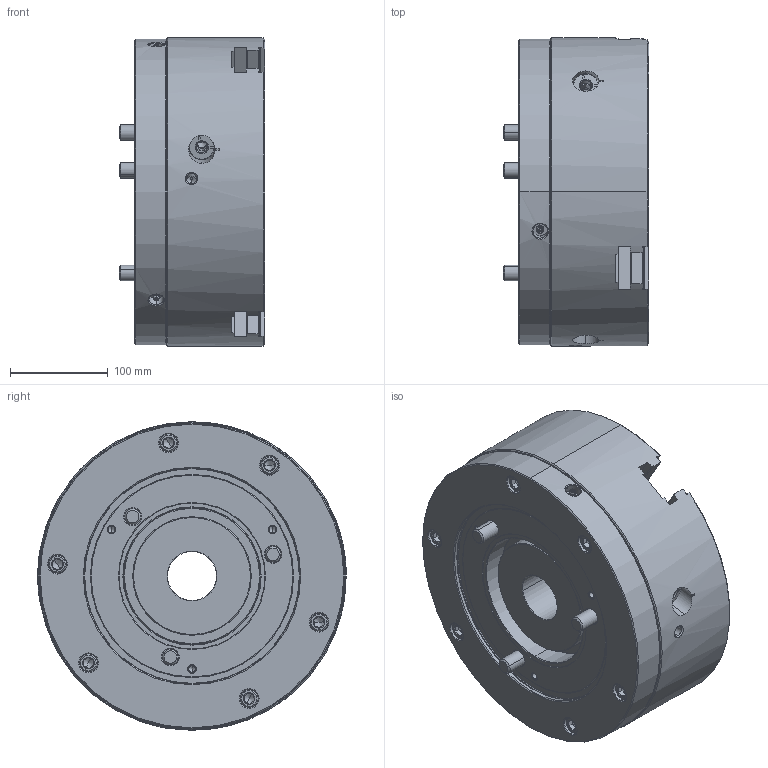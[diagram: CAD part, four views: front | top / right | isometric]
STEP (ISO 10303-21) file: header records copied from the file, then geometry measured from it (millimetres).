
FILE_DESCRIPTION (( 'STEP AP214' ), '1' );
FILE_NAME ('QJR12-00_UC.STEP', '2025-04-15T07:49:09', ( '' ), ( '' ), 'SwSTEP 2.0', 'SolidWorks 2022', '' );
FILE_SCHEMA (( 'AUTOMOTIVE_DESIGN' ));
Length unit declared in the file: millimetre
Products named in the file (3): QJR12-00_UC; 開端^QJR12-00_61P263143; Copy of 61P804753^QJR12-00_61P263143
Assembly tree (2 placements, depth 2):
  QJR12-00_UC
    Copy of 61P804753^QJR12-00_61P263143
    開端^QJR12-00_61P263143
Bounding box: 149 x 315 x 315 mm (x, y, z)
Volume: 8496657.9 mm3; surface area: 545060.2 mm2
Topology: 2 solids, 24 shells, 1498 faces, 3790 edges, 2380 vertices
Faces by surface type: plane 667, cone 375, cylinder 291, bspline 119, torus 40, sphere 6
Entity records: 55324 total; most frequent: CARTESIAN_POINT 20134, ORIENTED_EDGE 7428, DIRECTION 6854, EDGE_CURVE 3714, AXIS2_PLACEMENT_3D 2468, VERTEX_POINT 2380, VECTOR 1918, LINE 1918
